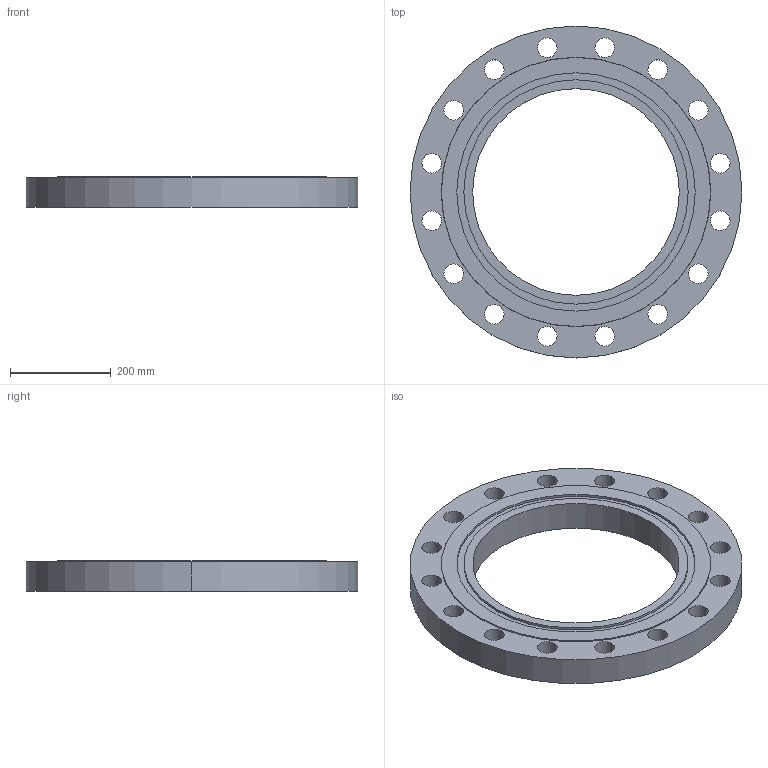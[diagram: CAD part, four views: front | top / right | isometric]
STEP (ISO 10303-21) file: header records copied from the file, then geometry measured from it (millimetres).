
FILE_DESCRIPTION (( 'STEP AP214' ), '1' );
FILE_NAME ('PN40 DN400 Type 01 - Type D Face.STEP', '2019-01-05T23:24:57', ( '' ), ( '' ), 'SwSTEP 2.0', 'SolidWorks 2019', '' );
FILE_SCHEMA (( 'AUTOMOTIVE_DESIGN' ));
Length unit declared in the file: millimetre
Products named in the file (1): PN40 DN400 Type 01 - Type D Face
Bounding box: 660 x 660 x 60 mm (x, y, z)
Volume: 11123167.7 mm3; surface area: 709377.7 mm2
Topology: 1 solids, 1 shells, 47 faces, 126 edges, 84 vertices
Faces by surface type: cylinder 40, plane 5, cone 2
Entity records: 1626 total; most frequent: DIRECTION 306, CARTESIAN_POINT 258, ORIENTED_EDGE 252, AXIS2_PLACEMENT_3D 132, EDGE_CURVE 126, CIRCLE 84, VERTEX_POINT 84, EDGE_LOOP 84
